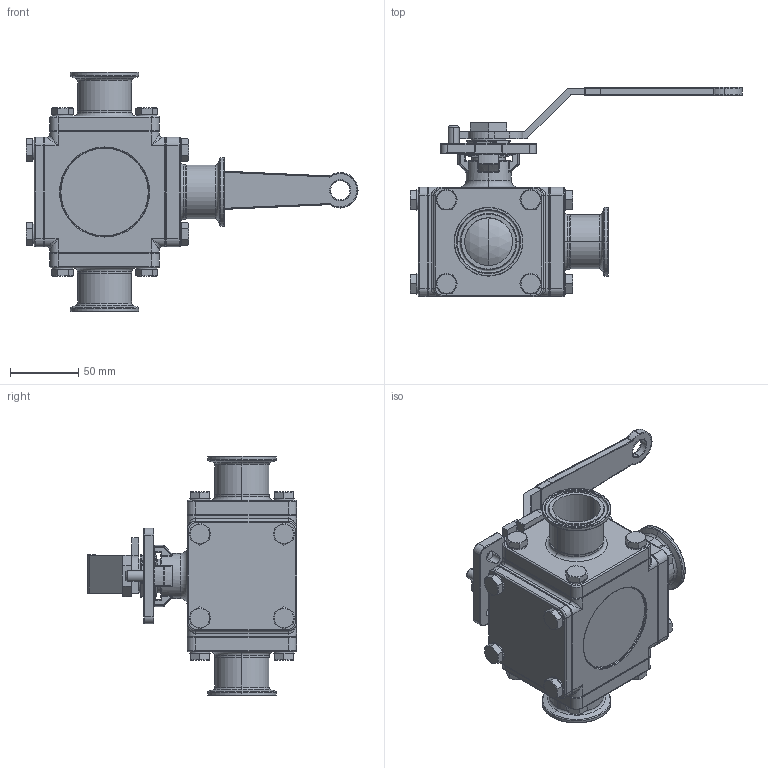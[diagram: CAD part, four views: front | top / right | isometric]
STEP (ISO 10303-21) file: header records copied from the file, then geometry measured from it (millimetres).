
FILE_DESCRIPTION (( 'STEP AP203' ), '1' );
FILE_NAME ('EG93CCC-61.5.STEP', '2019-07-02T02:25:59', ( '' ), ( '' ), 'SwSTEP 2.0', 'SolidWorks 2014', '' );
FILE_SCHEMA (( 'CONFIG_CONTROL_DESIGN' ));
Length unit declared in the file: millimetre
Products named in the file (24): 16.BOLT1.5; 4.SEAT1-1.5; 18.THINNER NUT1.5-2.0; 13.STEM1.5-2.0; 15.SPRING WASHER1.5; 21.PLAIN WASHER1.5-2.0; 7.O-RING1.5-2.0; 6.THRUST WASHER1.5-2.0; 5.GASKET1.5; 14.HANDLE1.5-2.0; 3.3WAY-BALL-1.5-L; 17.LOCKING TAB1.5-2.0; EG93CCC-61.5; 22.SEAT-L-1.5; 8.STEM PACKING1.5-2.0; 11.STOP PIN1.5-2.0; 10.BEVEL WASHER1.5-2.0; 12.3WAY-NUT1.5-2.0; 9.RING1.5-2.0; 19.3WAY-CAP1.5; 20.SEAT BACK1.5; 2.3WAY-CAP-C-1.5; 22.SEAT-R-1.5; 1.3WAY-BODY1.5
Assembly tree (58 placements, depth 2):
  EG93CCC-61.5
    1.3WAY-BODY1.5
    3.3WAY-BALL-1.5-L
    13.STEM1.5-2.0
    6.THRUST WASHER1.5-2.0
    7.O-RING1.5-2.0
    8.STEM PACKING1.5-2.0
    9.RING1.5-2.0
    10.BEVEL WASHER1.5-2.0  x2
    18.THINNER NUT1.5-2.0
    17.LOCKING TAB1.5-2.0
    22.SEAT-L-1.5
    22.SEAT-R-1.5
    20.SEAT BACK1.5
    4.SEAT1-1.5  x2
    5.GASKET1.5  x2
    19.3WAY-CAP1.5
    2.3WAY-CAP-C-1.5  x3
    15.SPRING WASHER1.5  x16
    16.BOLT1.5  x16
    21.PLAIN WASHER1.5-2.0
    14.HANDLE1.5-2.0
    12.3WAY-NUT1.5-2.0
    11.STOP PIN1.5-2.0
Bounding box: 243 x 153.1 x 175 mm (x, y, z)
Volume: 877510.9 mm3; surface area: 298692.6 mm2
Topology: 59 solids, 59 shells, 1538 faces, 3446 edges, 2022 vertices
Faces by surface type: cylinder 564, plane 398, cone 252, torus 227, sphere 59, bspline 38
Entity records: 33557 total; most frequent: CARTESIAN_POINT 7183, DIRECTION 5341, ORIENTED_EDGE 4484, AXIS2_PLACEMENT_3D 2270, EDGE_CURVE 2242, VERTEX_POINT 1324, CIRCLE 1258, EDGE_LOOP 1096
